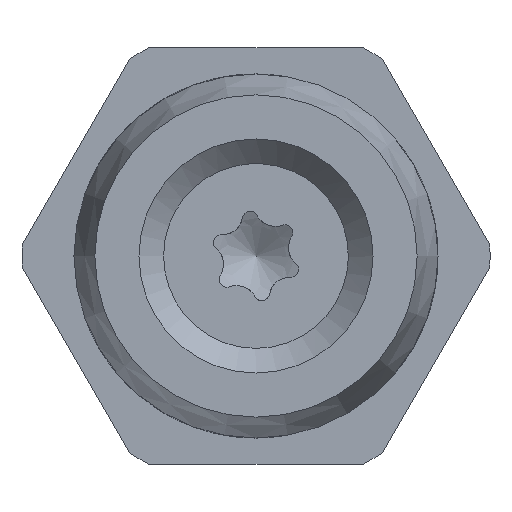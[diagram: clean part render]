
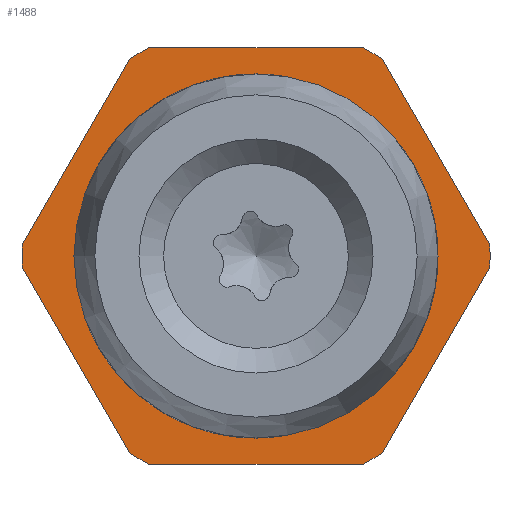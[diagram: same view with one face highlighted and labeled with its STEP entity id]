
A CAD part, front view. The second image highlights one B-rep face of the part: STEP entity #1488.
In plain terms, the highlighted planar face has unit normal (0, -1, 0).
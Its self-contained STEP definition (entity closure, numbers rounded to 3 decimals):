
#117=LINE('',#2765,#205);
#118=LINE('',#2769,#206);
#119=LINE('',#2773,#207);
#120=LINE('',#2777,#208);
#121=LINE('',#2781,#209);
#122=LINE('',#2785,#210);
#205=VECTOR('',#1954,10.);
#206=VECTOR('',#1957,10.);
#207=VECTOR('',#1960,10.);
#208=VECTOR('',#1963,10.);
#209=VECTOR('',#1966,10.);
#210=VECTOR('',#1969,10.);
#290=FACE_BOUND('',#429,.T.);
#343=FACE_OUTER_BOUND('',#428,.T.);
#428=EDGE_LOOP('',(#1171,#1172,#1173,#1174,#1175,#1176,#1177,#1178,#1179,
#1180,#1181,#1182));
#429=EDGE_LOOP('',(#1183,#1184));
#513=CIRCLE('',#1635,3.5);
#514=CIRCLE('',#1636,3.5);
#515=CIRCLE('',#1638,4.5);
#516=CIRCLE('',#1639,4.5);
#517=CIRCLE('',#1640,4.5);
#518=CIRCLE('',#1641,4.5);
#519=CIRCLE('',#1642,4.5);
#520=CIRCLE('',#1643,4.5);
#643=VERTEX_POINT('',#2756);
#644=VERTEX_POINT('',#2757);
#645=VERTEX_POINT('',#2763);
#646=VERTEX_POINT('',#2764);
#647=VERTEX_POINT('',#2766);
#648=VERTEX_POINT('',#2768);
#649=VERTEX_POINT('',#2770);
#650=VERTEX_POINT('',#2772);
#651=VERTEX_POINT('',#2774);
#652=VERTEX_POINT('',#2776);
#653=VERTEX_POINT('',#2778);
#654=VERTEX_POINT('',#2780);
#655=VERTEX_POINT('',#2782);
#656=VERTEX_POINT('',#2784);
#831=EDGE_CURVE('',#643,#644,#513,.T.);
#832=EDGE_CURVE('',#644,#643,#514,.T.);
#835=EDGE_CURVE('',#645,#646,#117,.T.);
#836=EDGE_CURVE('',#647,#646,#515,.T.);
#837=EDGE_CURVE('',#647,#648,#118,.T.);
#838=EDGE_CURVE('',#649,#648,#516,.T.);
#839=EDGE_CURVE('',#649,#650,#119,.T.);
#840=EDGE_CURVE('',#651,#650,#517,.T.);
#841=EDGE_CURVE('',#651,#652,#120,.T.);
#842=EDGE_CURVE('',#653,#652,#518,.T.);
#843=EDGE_CURVE('',#653,#654,#121,.T.);
#844=EDGE_CURVE('',#655,#654,#519,.T.);
#845=EDGE_CURVE('',#655,#656,#122,.T.);
#846=EDGE_CURVE('',#645,#656,#520,.T.);
#1171=ORIENTED_EDGE('',*,*,#835,.T.);
#1172=ORIENTED_EDGE('',*,*,#836,.F.);
#1173=ORIENTED_EDGE('',*,*,#837,.T.);
#1174=ORIENTED_EDGE('',*,*,#838,.F.);
#1175=ORIENTED_EDGE('',*,*,#839,.T.);
#1176=ORIENTED_EDGE('',*,*,#840,.F.);
#1177=ORIENTED_EDGE('',*,*,#841,.T.);
#1178=ORIENTED_EDGE('',*,*,#842,.F.);
#1179=ORIENTED_EDGE('',*,*,#843,.T.);
#1180=ORIENTED_EDGE('',*,*,#844,.F.);
#1181=ORIENTED_EDGE('',*,*,#845,.T.);
#1182=ORIENTED_EDGE('',*,*,#846,.F.);
#1183=ORIENTED_EDGE('',*,*,#831,.T.);
#1184=ORIENTED_EDGE('',*,*,#832,.T.);
#1369=PLANE('',#1637);
#1488=ADVANCED_FACE('',(#343,#290),#1369,.T.);
#1635=AXIS2_PLACEMENT_3D('',#2758,#1946,#1947);
#1636=AXIS2_PLACEMENT_3D('',#2759,#1948,#1949);
#1637=AXIS2_PLACEMENT_3D('',#2762,#1952,#1953);
#1638=AXIS2_PLACEMENT_3D('',#2767,#1955,#1956);
#1639=AXIS2_PLACEMENT_3D('',#2771,#1958,#1959);
#1640=AXIS2_PLACEMENT_3D('',#2775,#1961,#1962);
#1641=AXIS2_PLACEMENT_3D('',#2779,#1964,#1965);
#1642=AXIS2_PLACEMENT_3D('',#2783,#1967,#1968);
#1643=AXIS2_PLACEMENT_3D('',#2786,#1970,#1971);
#1946=DIRECTION('center_axis',(0.,1.,0.));
#1947=DIRECTION('ref_axis',(-1.,0.,0.));
#1948=DIRECTION('center_axis',(0.,1.,0.));
#1949=DIRECTION('ref_axis',(-1.,0.,0.));
#1952=DIRECTION('center_axis',(0.,-1.,0.));
#1953=DIRECTION('ref_axis',(0.,0.,
-1.));
#1954=DIRECTION('',(-1.,0.,0.));
#1955=DIRECTION('center_axis',(0.,1.,0.));
#1956=DIRECTION('ref_axis',(-1.,0.,0.));
#1957=DIRECTION('',(-0.5,0.,-0.866));
#1958=DIRECTION('center_axis',(0.,1.,0.));
#1959=DIRECTION('ref_axis',(-1.,0.,0.));
#1960=DIRECTION('',(0.5,0.,-0.866));
#1961=DIRECTION('center_axis',(0.,1.,0.));
#1962=DIRECTION('ref_axis',(-1.,0.,0.));
#1963=DIRECTION('',(1.,0.,0.));
#1964=DIRECTION('center_axis',(0.,1.,0.));
#1965=DIRECTION('ref_axis',(-1.,0.,0.));
#1966=DIRECTION('',(0.5,0.,0.866));
#1967=DIRECTION('center_axis',(0.,1.,0.));
#1968=DIRECTION('ref_axis',(-1.,0.,0.));
#1969=DIRECTION('',(-0.5,0.,0.866));
#1970=DIRECTION('center_axis',(0.,1.,0.));
#1971=DIRECTION('ref_axis',(-1.,0.,0.));
#2756=CARTESIAN_POINT('',(-3.5,14.7,0.));
#2757=CARTESIAN_POINT('',(3.5,14.7,0.));
#2758=CARTESIAN_POINT('Origin',(0.,14.7,0.));
#2759=CARTESIAN_POINT('Origin',(0.,14.7,0.));
#2762=CARTESIAN_POINT('Origin',(-3.725,14.7,0.));
#2763=CARTESIAN_POINT('',(2.062,14.7,4.));
#2764=CARTESIAN_POINT('',(-2.062,14.7,4.));
#2765=CARTESIAN_POINT('',(-3.017,14.7,4.));
#2766=CARTESIAN_POINT('',(-2.433,14.7,3.785));
#2767=CARTESIAN_POINT('Origin',(0.,14.7,0.));
#2768=CARTESIAN_POINT('',(-4.495,14.7,0.215));
#2769=CARTESIAN_POINT('',(-4.507,14.7,0.194));
#2770=CARTESIAN_POINT('',(-4.495,14.7,-0.215));
#2771=CARTESIAN_POINT('Origin',(0.,14.7,0.));
#2772=CARTESIAN_POINT('',(-2.433,14.7,-3.785));
#2773=CARTESIAN_POINT('',(-3.352,14.7,-2.194));
#2774=CARTESIAN_POINT('',(-2.062,14.7,-4.));
#2775=CARTESIAN_POINT('Origin',(0.,14.7,0.));
#2776=CARTESIAN_POINT('',(2.062,14.7,-4.));
#2777=CARTESIAN_POINT('',(-0.708,14.7,-4.));
#2778=CARTESIAN_POINT('',(2.433,14.7,-3.785));
#2779=CARTESIAN_POINT('Origin',(0.,14.7,0.));
#2780=CARTESIAN_POINT('',(4.495,14.7,-0.215));
#2781=CARTESIAN_POINT('',(3.576,14.7,-1.806));
#2782=CARTESIAN_POINT('',(4.495,14.7,0.215));
#2783=CARTESIAN_POINT('Origin',(0.,14.7,0.));
#2784=CARTESIAN_POINT('',(2.433,14.7,3.785));
#2785=CARTESIAN_POINT('',(2.421,14.7,3.806));
#2786=CARTESIAN_POINT('Origin',(0.,14.7,0.));
